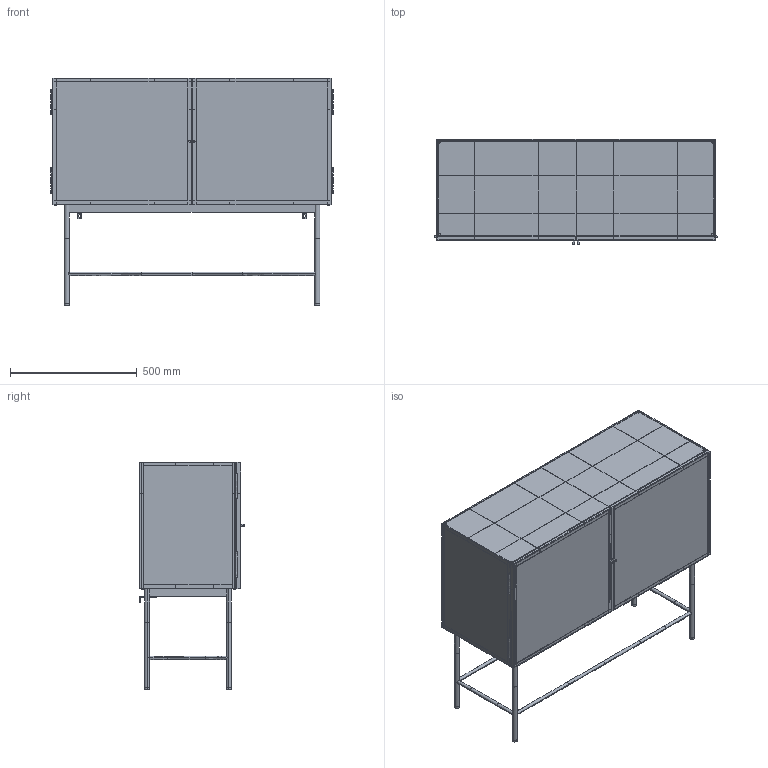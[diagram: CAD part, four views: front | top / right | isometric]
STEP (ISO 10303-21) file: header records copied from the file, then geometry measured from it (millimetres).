
FILE_DESCRIPTION(/* description */ (''),/* implementation_level */ '2;1');
FILE_NAME(/* name */ 'HE14JW~Q',/* time_stamp */ '2020-03-27T14:51:22+01:00',/* author */ (''),/* organization */ (''),/* preprocessor_version */ 'ST-DEVELOPER v16.5',/* originating_system */ '',/* authorisation */ '');
FILE_SCHEMA (('AUTOMOTIVE_DESIGN'));
Length unit declared in the file: millimetre
Products named in the file (1): Document
Bounding box: 1116 x 415 x 900 mm (x, y, z)
Volume: 10415774.6 mm3; surface area: 6528109.5 mm2
Topology: 61 solids, 65 shells, 910 faces, 1946 edges, 1106 vertices
Faces by surface type: plane 562, bspline 348
Entity records: 25348 total; most frequent: CARTESIAN_POINT 12127, ORIENTED_EDGE 3780, EDGE_CURVE 1894, B_SPLINE_CURVE_WITH_KNOTS 1190, VERTEX_POINT 1106, EDGE_LOOP 956, ADVANCED_FACE 910, FACE_OUTER_BOUND 910
